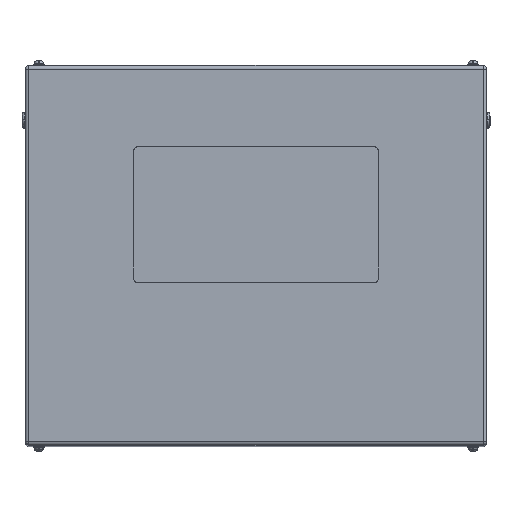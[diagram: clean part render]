
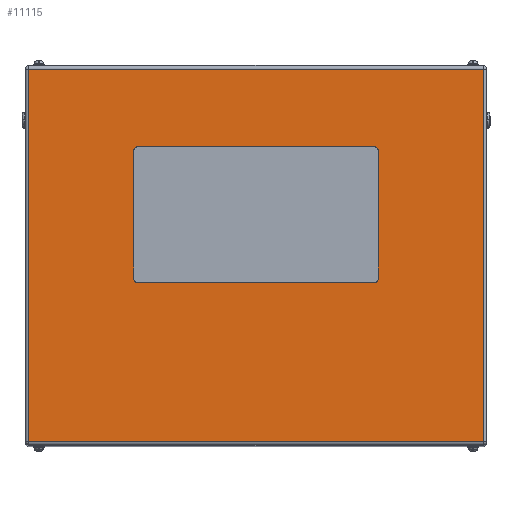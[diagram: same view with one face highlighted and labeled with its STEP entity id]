
A CAD part, top view. The second image highlights one B-rep face of the part: STEP entity #11115.
In plain terms, the highlighted planar face has unit normal (0, 0, 1).
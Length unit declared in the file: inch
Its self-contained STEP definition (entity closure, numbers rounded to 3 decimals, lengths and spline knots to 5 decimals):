
#583 = CARTESIAN_POINT ( 'NONE',  ( -9., 7.75, 28. ) ) ;
#718 = ORIENTED_EDGE ( 'NONE', *, *, #17712, .T. ) ;
#783 = DIRECTION ( 'NONE',  ( 1., 0., 0. ) ) ;
#831 = VERTEX_POINT ( 'NONE', #20505 ) ;
#963 = CARTESIAN_POINT ( 'NONE',  ( -8.75, 7.75, 28. ) ) ;
#1274 = CARTESIAN_POINT ( 'NONE',  ( -9., -1.75, 28. ) ) ;
#1753 = VERTEX_POINT ( 'NONE', #14084 ) ;
#2057 = VERTEX_POINT ( 'NONE', #1274 ) ;
#2351 = DIRECTION ( 'NONE',  ( 0., 0., 1. ) ) ;
#2579 = DIRECTION ( 'NONE',  ( 0., 1., 0. ) ) ;
#2895 = VERTEX_POINT ( 'NONE', #7105 ) ;
#2954 = CARTESIAN_POINT ( 'NONE',  ( 8.75, 7.75, 28. ) ) ;
#3345 = LINE ( 'NONE', #3763, #12867 ) ;
#3756 = DIRECTION ( 'NONE',  ( 0., -1., 0. ) ) ;
#3763 = CARTESIAN_POINT ( 'NONE',  ( 16.8, -13.734, 28. ) ) ;
#3884 = ORIENTED_EDGE ( 'NONE', *, *, #19855, .T. ) ;
#4294 = EDGE_CURVE ( 'NONE', #20418, #15017, #12575, .T. ) ;
#4392 = EDGE_CURVE ( 'NONE', #16524, #1753, #20311, .T. ) ;
#4454 = LINE ( 'NONE', #10665, #5345 ) ;
#4522 = CARTESIAN_POINT ( 'NONE',  ( 8.75, -2., 28. ) ) ;
#5066 = ORIENTED_EDGE ( 'NONE', *, *, #4294, .F. ) ;
#5127 = AXIS2_PLACEMENT_3D ( 'NONE', #17275, #2351, #783 ) ;
#5210 = AXIS2_PLACEMENT_3D ( 'NONE', #16181, #21153, #15985 ) ;
#5345 = VECTOR ( 'NONE', #17542, 39.37008 ) ;
#5408 = CARTESIAN_POINT ( 'NONE',  ( -16.8, -13.734, 28. ) ) ;
#5626 = CARTESIAN_POINT ( 'NONE',  ( -8.75, 8., 28. ) ) ;
#5819 = CARTESIAN_POINT ( 'NONE',  ( 16.8, 14., 28. ) ) ;
#6373 = VERTEX_POINT ( 'NONE', #6442 ) ;
#6442 = CARTESIAN_POINT ( 'NONE',  ( -8.75, 8., 28. ) ) ;
#6693 = ORIENTED_EDGE ( 'NONE', *, *, #7318, .F. ) ;
#6999 = PLANE ( 'NONE',  #19029 ) ;
#7105 = CARTESIAN_POINT ( 'NONE',  ( 16.8, -13.734, 28. ) ) ;
#7110 = DIRECTION ( 'NONE',  ( 0., -1., 0. ) ) ;
#7200 = DIRECTION ( 'NONE',  ( 0., 0., -1. ) ) ;
#7318 = EDGE_CURVE ( 'NONE', #15017, #6373, #16971, .T. ) ;
#7333 = AXIS2_PLACEMENT_3D ( 'NONE', #2954, #7682, #21003 ) ;
#7677 = EDGE_CURVE ( 'NONE', #9675, #20418, #8740, .T. ) ;
#7682 = DIRECTION ( 'NONE',  ( 0., 0., 1. ) ) ;
#8474 = VECTOR ( 'NONE', #3756, 39.37008 ) ;
#8532 = EDGE_CURVE ( 'NONE', #6373, #831, #12299, .T. ) ;
#8740 = LINE ( 'NONE', #8950, #9271 ) ;
#8901 = LINE ( 'NONE', #5819, #13682 ) ;
#8950 = CARTESIAN_POINT ( 'NONE',  ( 9., 7.75, 28. ) ) ;
#8980 = EDGE_CURVE ( 'NONE', #13198, #9675, #19951, .T. ) ;
#9058 = DIRECTION ( 'NONE',  ( 0., 1., 0. ) ) ;
#9271 = VECTOR ( 'NONE', #9058, 39.37008 ) ;
#9675 = VERTEX_POINT ( 'NONE', #14389 ) ;
#9720 = EDGE_LOOP ( 'NONE', ( #3884, #718, #13881, #10309 ) ) ;
#9997 = VECTOR ( 'NONE', #16858, 39.37008 ) ;
#10081 = ORIENTED_EDGE ( 'NONE', *, *, #7677, .F. ) ;
#10309 = ORIENTED_EDGE ( 'NONE', *, *, #4392, .T. ) ;
#10665 = CARTESIAN_POINT ( 'NONE',  ( -8.75, -2., 28. ) ) ;
#10897 = CARTESIAN_POINT ( 'NONE',  ( -8.75, -2., 28. ) ) ;
#11115 = ADVANCED_FACE ( 'NONE', ( #11955, #15233 ), #6999, .F. ) ;
#11756 = ORIENTED_EDGE ( 'NONE', *, *, #8980, .F. ) ;
#11955 = FACE_BOUND ( 'NONE', #17217, .T. ) ;
#11987 = ORIENTED_EDGE ( 'NONE', *, *, #20670, .F. ) ;
#12006 = EDGE_CURVE ( 'NONE', #17282, #13198, #4454, .T. ) ;
#12192 = VECTOR ( 'NONE', #15376, 39.37008 ) ;
#12299 = CIRCLE ( 'NONE', #19576, 0.25 ) ;
#12383 = DIRECTION ( 'NONE',  ( -1., 0., 0. ) ) ;
#12575 = CIRCLE ( 'NONE', #7333, 0.25 ) ;
#12867 = VECTOR ( 'NONE', #15346, 39.37008 ) ;
#13079 = EDGE_CURVE ( 'NONE', #2895, #16524, #8901, .T. ) ;
#13147 = CIRCLE ( 'NONE', #5210, 0.25 ) ;
#13198 = VERTEX_POINT ( 'NONE', #4522 ) ;
#13587 = LINE ( 'NONE', #20169, #8474 ) ;
#13682 = VECTOR ( 'NONE', #2579, 39.37008 ) ;
#13881 = ORIENTED_EDGE ( 'NONE', *, *, #13079, .T. ) ;
#14084 = CARTESIAN_POINT ( 'NONE',  ( -16.8, 13.734, 28. ) ) ;
#14371 = ORIENTED_EDGE ( 'NONE', *, *, #18370, .F. ) ;
#14389 = CARTESIAN_POINT ( 'NONE',  ( 9., -1.75, 28. ) ) ;
#14892 = CARTESIAN_POINT ( 'NONE',  ( 9., 7.75, 28. ) ) ;
#15017 = VERTEX_POINT ( 'NONE', #17080 ) ;
#15233 = FACE_OUTER_BOUND ( 'NONE', #9720, .T. ) ;
#15346 = DIRECTION ( 'NONE',  ( 1., 0., 0. ) ) ;
#15364 = LINE ( 'NONE', #583, #16710 ) ;
#15376 = DIRECTION ( 'NONE',  ( -1., 0., 0. ) ) ;
#15985 = DIRECTION ( 'NONE',  ( 1., 0., 0. ) ) ;
#16181 = CARTESIAN_POINT ( 'NONE',  ( -8.75, -1.75, 28. ) ) ;
#16441 = CARTESIAN_POINT ( 'NONE',  ( 16.8, 13.734, 28. ) ) ;
#16524 = VERTEX_POINT ( 'NONE', #16441 ) ;
#16710 = VECTOR ( 'NONE', #7110, 39.37008 ) ;
#16858 = DIRECTION ( 'NONE',  ( -1., 0., 0. ) ) ;
#16971 = LINE ( 'NONE', #5626, #9997 ) ;
#17080 = CARTESIAN_POINT ( 'NONE',  ( 8.75, 8., 28. ) ) ;
#17217 = EDGE_LOOP ( 'NONE', ( #20310, #11987, #14371, #21210, #6693, #5066, #10081, #11756 ) ) ;
#17275 = CARTESIAN_POINT ( 'NONE',  ( 8.75, -1.75, 28. ) ) ;
#17282 = VERTEX_POINT ( 'NONE', #10897 ) ;
#17420 = VERTEX_POINT ( 'NONE', #5408 ) ;
#17542 = DIRECTION ( 'NONE',  ( 1., 0., 0. ) ) ;
#17577 = DIRECTION ( 'NONE',  ( 1., 0., 0. ) ) ;
#17712 = EDGE_CURVE ( 'NONE', #17420, #2895, #3345, .T. ) ;
#18370 = EDGE_CURVE ( 'NONE', #831, #2057, #15364, .T. ) ;
#18572 = CARTESIAN_POINT ( 'NONE',  ( 17., 14., 28. ) ) ;
#18698 = CARTESIAN_POINT ( 'NONE',  ( 17., 13.734, 28. ) ) ;
#19029 = AXIS2_PLACEMENT_3D ( 'NONE', #18572, #7200, #12383 ) ;
#19576 = AXIS2_PLACEMENT_3D ( 'NONE', #963, #20822, #17577 ) ;
#19855 = EDGE_CURVE ( 'NONE', #1753, #17420, #13587, .T. ) ;
#19951 = CIRCLE ( 'NONE', #5127, 0.25 ) ;
#20169 = CARTESIAN_POINT ( 'NONE',  ( -16.8, 14., 28. ) ) ;
#20310 = ORIENTED_EDGE ( 'NONE', *, *, #12006, .F. ) ;
#20311 = LINE ( 'NONE', #18698, #12192 ) ;
#20418 = VERTEX_POINT ( 'NONE', #14892 ) ;
#20505 = CARTESIAN_POINT ( 'NONE',  ( -9., 7.75, 28. ) ) ;
#20670 = EDGE_CURVE ( 'NONE', #2057, #17282, #13147, .T. ) ;
#20822 = DIRECTION ( 'NONE',  ( 0., 0., 1. ) ) ;
#21003 = DIRECTION ( 'NONE',  ( -1., 0., 0. ) ) ;
#21153 = DIRECTION ( 'NONE',  ( 0., 0., 1. ) ) ;
#21210 = ORIENTED_EDGE ( 'NONE', *, *, #8532, .F. ) ;
